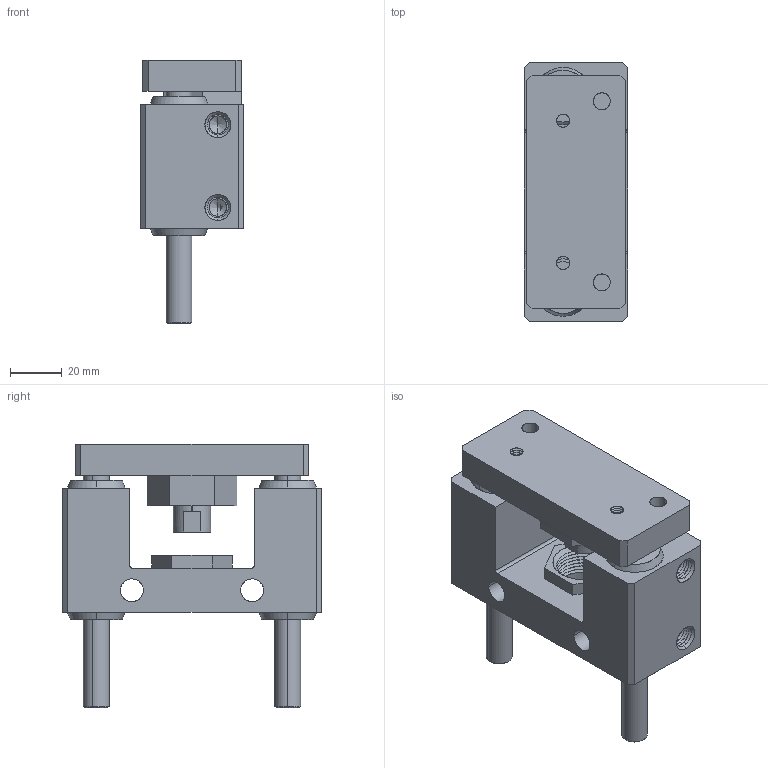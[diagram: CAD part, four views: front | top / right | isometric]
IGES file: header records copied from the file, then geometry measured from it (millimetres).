
Start section: SolidWorks IGES file using analytic representation for surfaces
Global section: file name: c:\CATALO3D\IGS\GLC20.0025.IGS; native system: SolidWorks 2005 by SolidWorks Corporation; preprocessor: SolidWorks 2005 by SolidWorks Corporation; author: tania; date: 051025.171834; units: millimetre
Bounding box: 40 x 100 x 102 mm (x, y, z)
Surface area: 51797.1 mm2 (no closed solid volume)
Topology: 0 solids, 0 shells, 646 faces, 10654 edges, 13502 vertices
Faces by surface type: revolution 484, bspline 162
